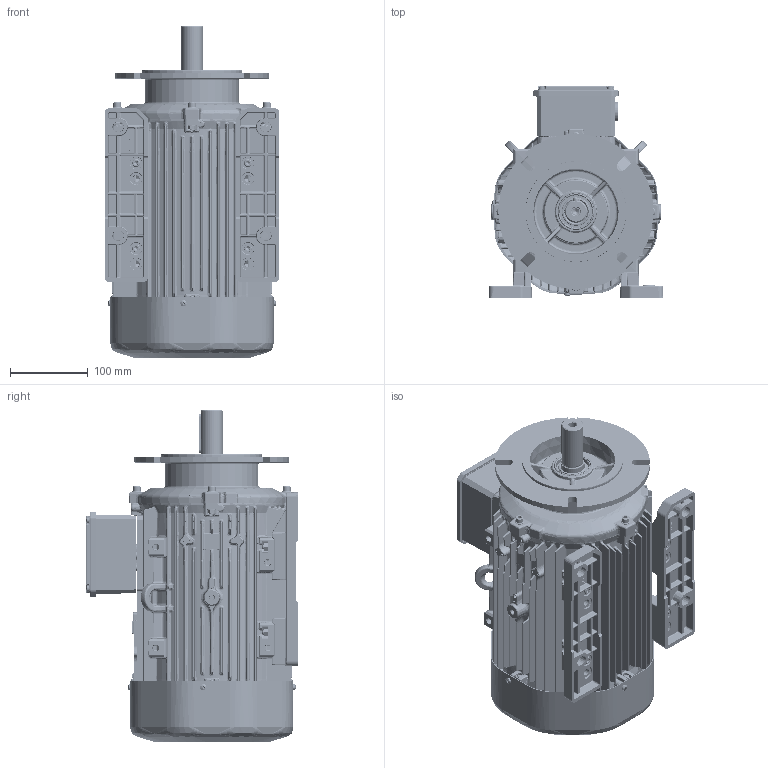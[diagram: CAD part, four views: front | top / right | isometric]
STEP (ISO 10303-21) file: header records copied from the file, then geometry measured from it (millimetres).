
FILE_DESCRIPTION(/* description */ (''),/* implementation_level */ '2;1');
FILE_NAME(/* name */ 'OUTLOOK VIEW QH112 PA B35 - REDUCED FF165 SPL.stp',/* time_stamp */ '2021-09-13T12:30:41+03:00',/* author */ (''),/* organization */ (''),/* preprocessor_version */ 'ST-DEVELOPER v16',/* originating_system */ 'SIEMENS PLM Software NX 11.0',/* authorisation */ '');
FILE_SCHEMA (('AUTOMOTIVE_DESIGN { 1 0 10303 214 3 1 1 1 }'));
Products named in the file (1): 26062CE45B9Cd5g8
Bounding box: 225.12 x 274 x 427.6 mm (x, y, z)
Volume: 2648754.4 mm3; surface area: 1291390.3 mm2
Topology: 80 solids, 86 shells, 13128 faces, 30939 edges, 17485 vertices
Faces by surface type: cylinder 4267, bspline 3795, plane 2678, sphere 1048, torus 645, cone 621, extrusion 74
Full cylindrical faces by diameter (mm): 2 x14, 3 x2, 3.3 x4, 3.7 x4, 3.985 x1, 4 x9, 4.22 x1, 4.6 x3, 4.722 x2, 5 x11, 6 x12, 6.4 x16, 8 x9, 8.4 x1, 8.5 x1, 10 x12, 10.5 x1, 12 x12, 16 x1, 23.38 x2, 24.4 x1, 25 x3, 27.4 x1, 28 x1, 28.6 x1, 29.4 x2, 30 x5, 30.2 x1, 30.5 x1, 32.94 x1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
Entity records: 447615 total; most frequent: CARTESIAN_POINT 172590, ORIENTED_EDGE 59052, DIRECTION 54546, EDGE_CURVE 29526, AXIS2_PLACEMENT_3D 22489, VERTEX_POINT 17294, EDGE_LOOP 14328, ADVANCED_FACE 13121
